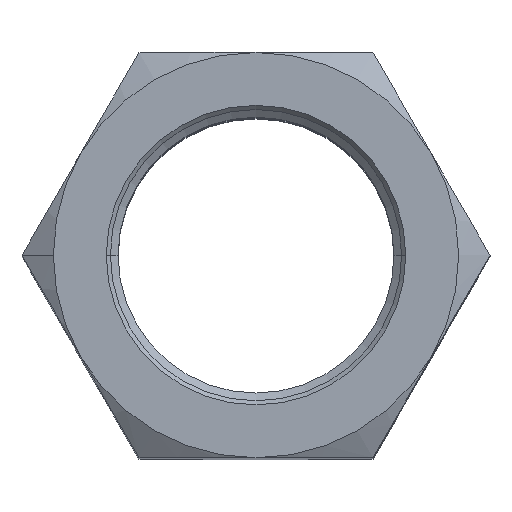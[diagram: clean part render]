
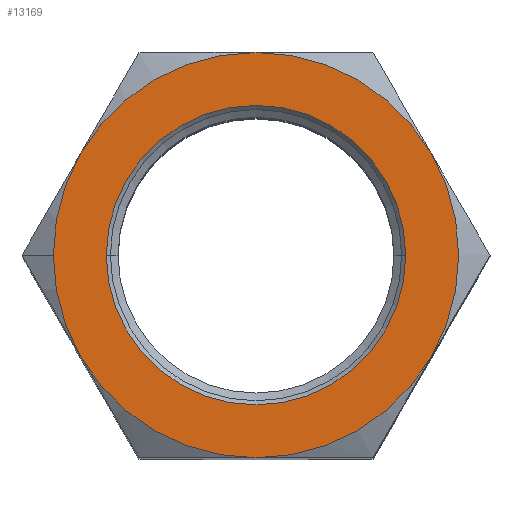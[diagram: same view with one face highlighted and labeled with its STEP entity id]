
A CAD part, top view. The second image highlights one B-rep face of the part: STEP entity #13169.
In plain terms, the highlighted planar face has unit normal (0, 0, 1).
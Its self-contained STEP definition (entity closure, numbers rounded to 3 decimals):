
#503 = CARTESIAN_POINT ( 'NONE',  ( 0., 0., 44. ) ) ;
#518 = EDGE_CURVE ( 'NONE', #4445, #7070, #4324, .T. ) ;
#677 = CARTESIAN_POINT ( 'NONE',  ( -20.785, 0., 44. ) ) ;
#702 = ORIENTED_EDGE ( 'NONE', *, *, #11396, .F. ) ;
#968 = CARTESIAN_POINT ( 'NONE',  ( -18., 0., 44. ) ) ;
#1539 = AXIS2_PLACEMENT_3D ( 'NONE', #4018, #3965, #3906 ) ;
#1617 = CARTESIAN_POINT ( 'NONE',  ( 0., 0., 44. ) ) ;
#1706 = CARTESIAN_POINT ( 'NONE',  ( -13.3, 0., 44. ) ) ;
#1711 = AXIS2_PLACEMENT_3D ( 'NONE', #677, #10274, #2043 ) ;
#1860 = DIRECTION ( 'NONE',  ( 1., 0., 0. ) ) ;
#1907 = ORIENTED_EDGE ( 'NONE', *, *, #6092, .F. ) ;
#2005 = CIRCLE ( 'NONE', #2608, 18. ) ;
#2043 = DIRECTION ( 'NONE',  ( 1., 0., 0. ) ) ;
#2174 = DIRECTION ( 'NONE',  ( 0., 0., -1. ) ) ;
#2396 = CARTESIAN_POINT ( 'NONE',  ( 0., 0., 44. ) ) ;
#2608 = AXIS2_PLACEMENT_3D ( 'NONE', #3034, #16656, #2965 ) ;
#2824 = EDGE_LOOP ( 'NONE', ( #5970, #11521 ) ) ;
#2961 = DIRECTION ( 'NONE',  ( 0., 0., -1. ) ) ;
#2965 = DIRECTION ( 'NONE',  ( 1., 0., 0. ) ) ;
#2990 = DIRECTION ( 'NONE',  ( 1., 0., 0. ) ) ;
#3034 = CARTESIAN_POINT ( 'NONE',  ( 0., 0., 44. ) ) ;
#3348 = PLANE ( 'NONE',  #1711 ) ;
#3361 = EDGE_CURVE ( 'NONE', #11811, #12597, #12000, .T. ) ;
#3513 = AXIS2_PLACEMENT_3D ( 'NONE', #15323, #15277, #14371 ) ;
#3906 = DIRECTION ( 'NONE',  ( 1., 0., 0. ) ) ;
#3965 = DIRECTION ( 'NONE',  ( 0., 0., -1. ) ) ;
#4018 = CARTESIAN_POINT ( 'NONE',  ( 0., 0., 44. ) ) ;
#4141 = EDGE_CURVE ( 'NONE', #7070, #10467, #4912, .T. ) ;
#4324 = CIRCLE ( 'NONE', #6251, 18. ) ;
#4445 = VERTEX_POINT ( 'NONE', #968 ) ;
#4526 = DIRECTION ( 'NONE',  ( 0., 0., 1. ) ) ;
#4888 = EDGE_CURVE ( 'NONE', #10205, #4445, #9391, .T. ) ;
#4912 = CIRCLE ( 'NONE', #7690, 18. ) ;
#5765 = ORIENTED_EDGE ( 'NONE', *, *, #15395, .F. ) ;
#5970 = ORIENTED_EDGE ( 'NONE', *, *, #10923, .F. ) ;
#6092 = EDGE_CURVE ( 'NONE', #14972, #10205, #2005, .T. ) ;
#6251 = AXIS2_PLACEMENT_3D ( 'NONE', #2396, #2961, #8412 ) ;
#6492 = CARTESIAN_POINT ( 'NONE',  ( 0., -18., 44. ) ) ;
#7070 = VERTEX_POINT ( 'NONE', #8673 ) ;
#7429 = CIRCLE ( 'NONE', #16136, 13.3 ) ;
#7535 = CARTESIAN_POINT ( 'NONE',  ( 0., 18., 44. ) ) ;
#7641 = VERTEX_POINT ( 'NONE', #17554 ) ;
#7690 = AXIS2_PLACEMENT_3D ( 'NONE', #14773, #14713, #14651 ) ;
#7812 = EDGE_LOOP ( 'NONE', ( #5765, #10123, #702, #11084, #9428, #10929, #1907 ) ) ;
#8300 = EDGE_CURVE ( 'NONE', #7641, #15184, #7429, .T. ) ;
#8412 = DIRECTION ( 'NONE',  ( 1., 0., 0. ) ) ;
#8542 = FACE_OUTER_BOUND ( 'NONE', #7812, .T. ) ;
#8619 = CIRCLE ( 'NONE', #11636, 13.3 ) ;
#8673 = CARTESIAN_POINT ( 'NONE',  ( -15.588, 9., 44. ) ) ;
#8803 = CARTESIAN_POINT ( 'NONE',  ( 15.588, 9., 44. ) ) ;
#9391 = CIRCLE ( 'NONE', #3513, 18. ) ;
#9428 = ORIENTED_EDGE ( 'NONE', *, *, #518, .F. ) ;
#10094 = DIRECTION ( 'NONE',  ( 0., 0., 1. ) ) ;
#10123 = ORIENTED_EDGE ( 'NONE', *, *, #3361, .F. ) ;
#10205 = VERTEX_POINT ( 'NONE', #12040 ) ;
#10274 = DIRECTION ( 'NONE',  ( 0., 0., 1. ) ) ;
#10407 = CARTESIAN_POINT ( 'NONE',  ( 0., 0., 44. ) ) ;
#10467 = VERTEX_POINT ( 'NONE', #7535 ) ;
#10923 = EDGE_CURVE ( 'NONE', #15184, #7641, #8619, .T. ) ;
#10929 = ORIENTED_EDGE ( 'NONE', *, *, #4888, .F. ) ;
#11084 = ORIENTED_EDGE ( 'NONE', *, *, #4141, .F. ) ;
#11216 = DIRECTION ( 'NONE',  ( 0., 0., -1. ) ) ;
#11396 = EDGE_CURVE ( 'NONE', #10467, #11811, #14509, .T. ) ;
#11521 = ORIENTED_EDGE ( 'NONE', *, *, #8300, .F. ) ;
#11636 = AXIS2_PLACEMENT_3D ( 'NONE', #12758, #4526, #14100 ) ;
#11759 = DIRECTION ( 'NONE',  ( 1., 0., 0. ) ) ;
#11811 = VERTEX_POINT ( 'NONE', #8803 ) ;
#12000 = CIRCLE ( 'NONE', #1539, 18. ) ;
#12040 = CARTESIAN_POINT ( 'NONE',  ( -15.588, -9., 44. ) ) ;
#12597 = VERTEX_POINT ( 'NONE', #15799 ) ;
#12758 = CARTESIAN_POINT ( 'NONE',  ( 0., 0., 44. ) ) ;
#13169 = ADVANCED_FACE ( 'NONE', ( #13839, #8542 ), #3348, .T. ) ;
#13839 = FACE_BOUND ( 'NONE', #2824, .T. ) ;
#14100 = DIRECTION ( 'NONE',  ( 1., 0., 0. ) ) ;
#14260 = AXIS2_PLACEMENT_3D ( 'NONE', #10407, #2174, #11759 ) ;
#14371 = DIRECTION ( 'NONE',  ( 1., 0., 0. ) ) ;
#14509 = CIRCLE ( 'NONE', #14260, 18. ) ;
#14651 = DIRECTION ( 'NONE',  ( -1., 0., 0. ) ) ;
#14713 = DIRECTION ( 'NONE',  ( 0., 0., -1. ) ) ;
#14773 = CARTESIAN_POINT ( 'NONE',  ( 0., 0., 44. ) ) ;
#14912 = AXIS2_PLACEMENT_3D ( 'NONE', #1617, #11216, #2990 ) ;
#14972 = VERTEX_POINT ( 'NONE', #6492 ) ;
#15184 = VERTEX_POINT ( 'NONE', #1706 ) ;
#15277 = DIRECTION ( 'NONE',  ( 0., 0., -1. ) ) ;
#15323 = CARTESIAN_POINT ( 'NONE',  ( 0., 0., 44. ) ) ;
#15395 = EDGE_CURVE ( 'NONE', #12597, #14972, #17729, .T. ) ;
#15799 = CARTESIAN_POINT ( 'NONE',  ( 15.588, -9., 44. ) ) ;
#16136 = AXIS2_PLACEMENT_3D ( 'NONE', #503, #10094, #1860 ) ;
#16656 = DIRECTION ( 'NONE',  ( 0., 0., -1. ) ) ;
#17554 = CARTESIAN_POINT ( 'NONE',  ( 13.3, 0., 44. ) ) ;
#17729 = CIRCLE ( 'NONE', #14912, 18. ) ;
